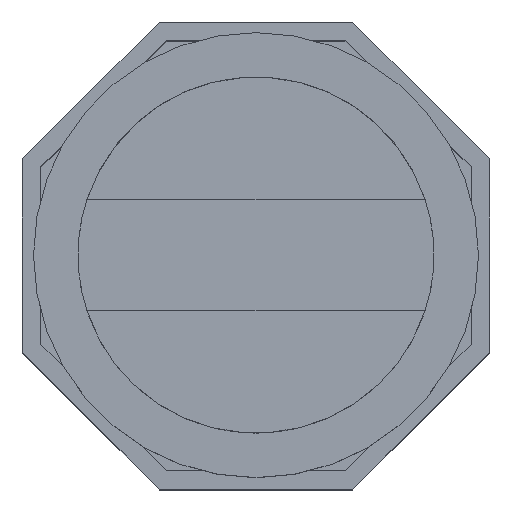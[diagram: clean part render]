
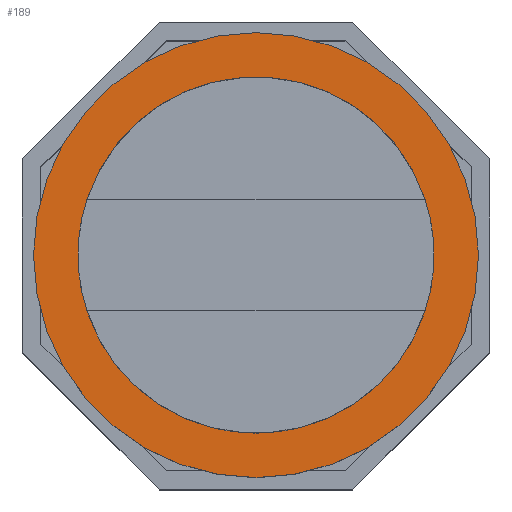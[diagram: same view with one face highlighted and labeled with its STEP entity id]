
A CAD part, top view. The second image highlights one B-rep face of the part: STEP entity #189.
In plain terms, the highlighted planar face has unit normal (0, 0, 1).
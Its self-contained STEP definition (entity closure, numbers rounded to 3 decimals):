
#189=ADVANCED_FACE('',(#272,#273),#274,.T.);
#272=FACE_BOUND('',#402,.T.);
#273=FACE_OUTER_BOUND('',#403,.T.);
#274=PLANE('',#404);
#402=EDGE_LOOP('',(#628,#629));
#403=EDGE_LOOP('',(#630,#631));
#404=AXIS2_PLACEMENT_3D('',#632,#633,#634);
#628=ORIENTED_EDGE('',*,*,#1025,.T.);
#629=ORIENTED_EDGE('',*,*,#1016,.T.);
#630=ORIENTED_EDGE('',*,*,#995,.T.);
#631=ORIENTED_EDGE('',*,*,#1032,.T.);
#632=CARTESIAN_POINT('',(0.0,0.0,-1.0));
#633=DIRECTION('',(0.0,0.0,1.0));
#634=DIRECTION('',(1.0,0.0,0.0));
#995=EDGE_CURVE('',#1149,#1153,#1155,.T.);
#1016=EDGE_CURVE('',#1182,#1194,#1196,.T.);
#1025=EDGE_CURVE('',#1194,#1182,#1209,.T.);
#1032=EDGE_CURVE('',#1153,#1149,#1216,.T.);
#1149=VERTEX_POINT('',#1409);
#1153=VERTEX_POINT('',#1414);
#1155=CIRCLE('',#1417,6.0);
#1182=VERTEX_POINT('',#1450);
#1194=VERTEX_POINT('',#1465);
#1196=CIRCLE('',#1468,4.8);
#1209=CIRCLE('',#1487,4.8);
#1216=CIRCLE('',#1494,6.0);
#1409=CARTESIAN_POINT('',(6.0,0.0,-1.0));
#1414=CARTESIAN_POINT('',(-6.0,0.,-1.0));
#1417=AXIS2_PLACEMENT_3D('',#1741,#1742,#1743);
#1450=CARTESIAN_POINT('',(4.8,0.,-1.0));
#1465=CARTESIAN_POINT('',(-4.8,0.,-1.0));
#1468=AXIS2_PLACEMENT_3D('',#1784,#1785,#1786);
#1487=AXIS2_PLACEMENT_3D('',#1799,#1800,#1801);
#1494=AXIS2_PLACEMENT_3D('',#1820,#1821,#1822);
#1741=CARTESIAN_POINT('',(0.0,0.0,-1.0));
#1742=DIRECTION('',(0.0,0.0,1.0));
#1743=DIRECTION('',(1.0,0.0,0.0));
#1784=CARTESIAN_POINT('',(0.0,0.0,-1.0));
#1785=DIRECTION('',(0.0,0.0,-1.0));
#1786=DIRECTION('',(1.0,0.0,0.0));
#1799=CARTESIAN_POINT('',(0.0,0.0,-1.0));
#1800=DIRECTION('',(0.0,0.0,-1.0));
#1801=DIRECTION('',(1.0,0.0,0.0));
#1820=CARTESIAN_POINT('',(0.0,0.0,-1.0));
#1821=DIRECTION('',(0.0,0.0,1.0));
#1822=DIRECTION('',(1.0,0.0,0.0));
